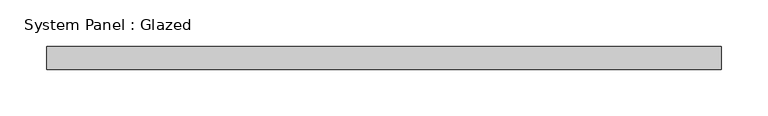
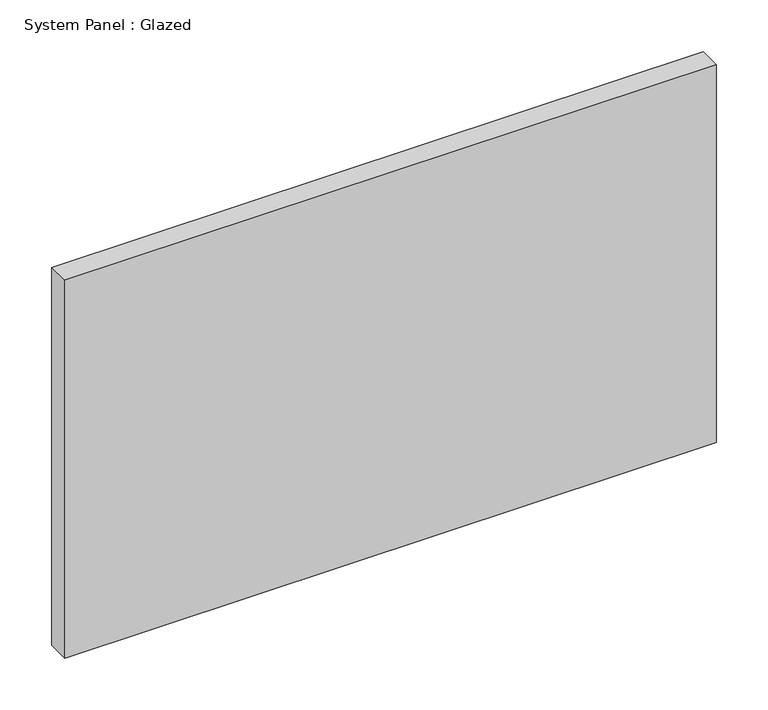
"""IFC4 building model written with IfcOpenShell, lengths in millimetres: plate geometry, System Panel : Glazed."""

import ifcopenshell
import ifcopenshell.guid

model = None  # the IFC model being written
_history = None  # IfcOwnerHistory: only IFC2X3 demands one
_inside = {}  # id of a spatial element -> (the spatial element, [elements in it])
_under = {}  # id of a project, library or spatial element -> (it, [spatial elements below it])
_declared = {}  # id of a project -> (the project, [libraries it declares])
_typed = {}  # id of a type object -> (the type object, [elements of that type])
_made_of = {}  # id of a material, layer set ... -> (it, [elements and type objects made of it])


def new_model(schema):
    """Start an empty IFC model of exactly this schema.

    Asked for "IFC4X3", IfcOpenShell would pick the latest addendum, in which some entities
    have other attributes; the version numbers below select the first issue.
    IFC2X3 requires an IfcOwnerHistory on every rooted entity: one is made here for all.
    """
    global model, _history
    if schema == "IFC4X3":
        model = ifcopenshell.file(schema_version=(4, 3, 0, 0))
    else:
        model = ifcopenshell.file(schema=schema)
    _inside.clear()
    _under.clear()
    _declared.clear()
    _typed.clear()
    _made_of.clear()
    _history = None
    if model.schema == "IFC2X3":
        org = make("IfcOrganization", Name="unknown")
        user = make(
            "IfcPersonAndOrganization",
            ThePerson=make("IfcPerson", FamilyName="unknown"),
            TheOrganization=org,
        )
        app = make(
            "IfcApplication",
            ApplicationDeveloper=org,
            Version="unknown",
            ApplicationFullName="unknown",
            ApplicationIdentifier="unknown",
        )
        _history = make(
            "IfcOwnerHistory",
            OwningUser=user,
            OwningApplication=app,
            ChangeAction="ADDED",
            CreationDate=0,
        )
    return model


def make(cls, **values):
    """One entity of the class cls with the attributes given. An attribute that is None is left unset."""
    return model.create_entity(
        cls, **{name: value for name, value in values.items() if value is not None}
    )


def rooted(cls, **values):
    """An entity with a GlobalId (a new one), such as an element, a storey or a relation."""
    return make(cls, GlobalId=ifcopenshell.guid.new(), OwnerHistory=_history, **values)


def si_unit(unit_type, name, prefix=None):
    """IfcSIUnit, for example si_unit("LENGTHUNIT", "METRE", prefix="MILLI")."""
    return make("IfcSIUnit", UnitType=unit_type, Prefix=prefix, Name=name)


def assignment(units):
    """IfcUnitAssignment: the units of a project."""
    return None if units is None else make("IfcUnitAssignment", Units=units)


def point(xyz):
    """IfcCartesianPoint."""
    return None if xyz is None else make("IfcCartesianPoint", Coordinates=xyz)


def direction(xyz):
    """IfcDirection."""
    return None if xyz is None else make("IfcDirection", DirectionRatios=xyz)


def frame(location, z_axis=None, x_axis=None):
    """IfcAxis2Placement3D, a coordinate frame: its origin and axes. An axis left out is left unset."""
    return make(
        "IfcAxis2Placement3D",
        Location=point(location),
        Axis=direction(z_axis),
        RefDirection=direction(x_axis),
    )


def origin():
    """The frame at (0, 0, 0) with its axes left unset."""
    return frame((0.0, 0.0, 0.0))


def origin_with_axes():
    """The frame at (0, 0, 0) with the z axis (0, 0, 1) and the x axis (1, 0, 0) written out."""
    return frame((0.0, 0.0, 0.0), z_axis=(0.0, 0.0, 1.0), x_axis=(1.0, 0.0, 0.0))


def place(relative_to, where):
    """IfcLocalPlacement: puts the frame where relative to a parent placement (None: the world)."""
    return make(
        "IfcLocalPlacement", PlacementRelTo=relative_to, RelativePlacement=where
    )


def context(
    kind, dimensions, precision=None, world=None, true_north=None, identifier=None
):
    """IfcGeometricRepresentationContext, for example the 3D "Model" context."""
    return make(
        "IfcGeometricRepresentationContext",
        ContextIdentifier=identifier,
        ContextType=kind,
        CoordinateSpaceDimension=dimensions,
        Precision=precision,
        WorldCoordinateSystem=world,
        TrueNorth=true_north,
    )


def project(units=None, contexts=None):
    """IfcProject with its units and contexts."""
    return rooted(
        "IfcProject",
        Name="project",
        RepresentationContexts=contexts,
        UnitsInContext=assignment(units),
    )


def spatial(cls, under=None, at=None, **own):
    """A site, building, storey or space (cls), placed at a placement, below another one or the project."""
    s = rooted(cls, ObjectPlacement=at, **own)
    if under is not None:
        _under.setdefault(under.id(), (under, []))[1].append(s)
    return s


def polyline(points):
    """IfcPolyline through the points."""
    return make("IfcPolyline", Points=[point(p) for p in points])


def outline(outer, holes=None, kind="AREA"):
    """IfcArbitraryClosedProfileDef: a profile drawn as a closed curve; with holes, ...WithVoids."""
    if holes is None:
        return make("IfcArbitraryClosedProfileDef", ProfileType=kind, OuterCurve=outer)
    return make(
        "IfcArbitraryProfileDefWithVoids",
        ProfileType=kind,
        OuterCurve=outer,
        InnerCurves=holes,
    )


def extrude(swept, where, along, depth):
    """IfcExtrudedAreaSolid: the profile swept, set in the frame where, extruded along a direction by depth."""
    return make(
        "IfcExtrudedAreaSolid",
        SweptArea=swept,
        Position=where,
        ExtrudedDirection=direction(along),
        Depth=depth,
    )


def shape(context_of_items, identifier, shape_type, items):
    """IfcShapeRepresentation: the items that make up one representation, for example the "Body"."""
    return make(
        "IfcShapeRepresentation",
        ContextOfItems=context_of_items,
        RepresentationIdentifier=identifier,
        RepresentationType=shape_type,
        Items=items,
    )


def source(mapping_origin, context_of_items, identifier, shape_type, items):
    """IfcRepresentationMap: a shape defined once, which mapped items show again and again."""
    return make(
        "IfcRepresentationMap",
        MappingOrigin=mapping_origin,
        MappedRepresentation=shape(context_of_items, identifier, shape_type, items),
    )


def transform(
    local_origin,
    x_axis=None,
    y_axis=None,
    z_axis=None,
    scale=None,
    scale2=None,
    scale3=None,
    uniform=True,
):
    """IfcCartesianTransformationOperator3D, or its non-uniform kind. x_axis, y_axis, z_axis: its Axis1, 2, 3."""
    if uniform:
        return make(
            "IfcCartesianTransformationOperator3D",
            Axis1=direction(x_axis),
            Axis2=direction(y_axis),
            LocalOrigin=point(local_origin),
            Scale=scale,
            Axis3=direction(z_axis),
        )
    return make(
        "IfcCartesianTransformationOperator3DnonUniform",
        Axis1=direction(x_axis),
        Axis2=direction(y_axis),
        LocalOrigin=point(local_origin),
        Scale=scale,
        Axis3=direction(z_axis),
        Scale2=scale2,
        Scale3=scale3,
    )


def mapped(mapping_source, mapping_target):
    """IfcMappedItem: shows the shape of a source again, moved by a transform."""
    return make(
        "IfcMappedItem", MappingSource=mapping_source, MappingTarget=mapping_target
    )


def made_of(thing, what):
    """Note that an element or type object is made of a material, layer set ...; save() writes the relation."""
    if what is not None:
        _made_of.setdefault(what.id(), (what, []))[1].append(thing)
    return thing


def element(
    cls,
    number,
    at=None,
    inside=None,
    cuts=None,
    type_object=None,
    material=None,
    context=None,
    identifier="Body",
    shape_type=None,
    held_by="IfcProductDefinitionShape",
    body=None,
    shapes=None,
    **own,
):
    """One element of the class cls, such as IfcWall. Its Tag is "e" and its number.

    at: its placement. inside: the storey or other place that contains it. cuts: it is an
    opening in that element (IfcRelVoidsElement). A single representation is given by context,
    identifier, shape_type and body (its items); several are given by shapes. held_by: the class
    of the entity that holds the representations. save() writes the other relations.
    """
    e = rooted(cls, Tag="e%d" % number, ObjectPlacement=at, **own)
    if body is not None:
        shapes = [shape(context, identifier, shape_type, body)]
    if shapes is not None:
        e.Representation = make(held_by, Representations=shapes)
    if inside is not None:
        _inside.setdefault(inside.id(), (inside, []))[1].append(e)
    if cuts is not None:
        rooted(
            "IfcRelVoidsElement", RelatingBuildingElement=cuts, RelatedOpeningElement=e
        )
    if type_object is not None:
        _typed.setdefault(type_object.id(), (type_object, []))[1].append(e)
    return made_of(e, material)


def aggregate(whole, parts):
    """IfcRelAggregates: a whole, such as a stair, and the parts it consists of."""
    return rooted("IfcRelAggregates", RelatingObject=whole, RelatedObjects=parts)


def save(model, path):
    """Write the relations noted so far, then the file.

    IfcRelAggregates (storeys below a building ...), IfcRelContainedInSpatialStructure (elements
    in a storey), IfcRelDefinesByType, IfcRelAssociatesMaterial and IfcRelDeclares: one each for
    every whole, place, type object, material and project.
    """
    for whole, parts in _under.values():
        aggregate(whole, parts)
    for where, things in _inside.values():
        rooted(
            "IfcRelContainedInSpatialStructure",
            RelatedElements=things,
            RelatingStructure=where,
        )
    for kind, things in _typed.values():
        rooted("IfcRelDefinesByType", RelatedObjects=things, RelatingType=kind)
    for what, things in _made_of.values():
        rooted("IfcRelAssociatesMaterial", RelatedObjects=things, RelatingMaterial=what)
    for by, libraries in _declared.values():
        rooted("IfcRelDeclares", RelatingContext=by, RelatedDefinitions=libraries)
    model.write(path)


def system_panel_glazed_4078d1d8(model_context):
    return source(origin(), model_context, "Body", "SweptSolid", [
        extrude(outline(polyline([(362.5, -12.5), (-362.5, -12.5), (-362.5, 12.5), (362.5, 12.5), (362.5, -12.5)])), origin_with_axes(), (0.0, 0.0, 1.0), 445.0),
    ])


if __name__ == "__main__":
    model = new_model("IFC4")
    model_context = context("Model", 3, world=origin())
    ifc_project = project(units=[si_unit("LENGTHUNIT", "METRE", prefix="MILLI")], contexts=[model_context])
    site = spatial("IfcSite", under=ifc_project)
    building = spatial("IfcBuilding", under=site)
    placement = place(None, origin())
    system_panel_glazed_shape = system_panel_glazed_4078d1d8(model_context)
    element("IfcPlate", 1, ObjectType="System Panel : Glazed", at=placement, inside=building, context=model_context, shape_type="MappedRepresentation", body=[
        mapped(system_panel_glazed_shape, transform((0.0, 0.0, 0.0), x_axis=(1.0, 0.0, 0.0), y_axis=(0.0, 1.0, 0.0), z_axis=(0.0, 0.0, 1.0))),
    ])
    save(model, "model.ifc")
